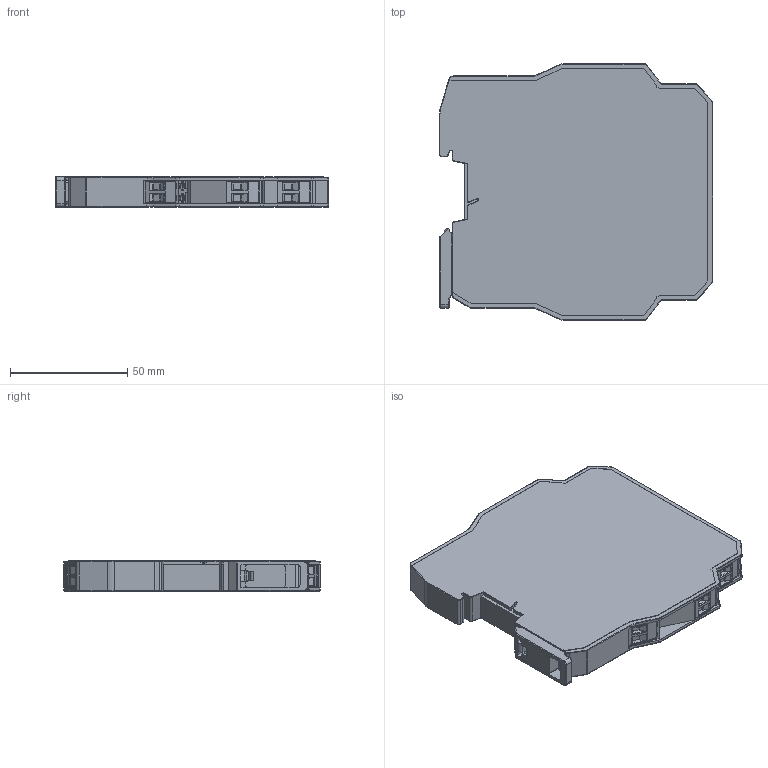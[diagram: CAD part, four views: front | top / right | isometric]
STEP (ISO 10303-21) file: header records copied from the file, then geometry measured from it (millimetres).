
FILE_DESCRIPTION(/* description */ (''),/* implementation_level */ '2;1');
FILE_NAME(/* name */ 'C1C1stp-3D',/* time_stamp */ '2025-11-12T05:38:01+08:00',/* author */ (''),/* organization */ (''),/* preprocessor_version */ 'ST-DEVELOPER v9',/* originating_system */ 'EDS PLM SOLUTIONS - UNIGRAPHICS NX 2.0',/* authorisation */ '');
FILE_SCHEMA (('AUTOMOTIVE_DESIGN { 1 0 10303 214 0 1 1 1 }'));
Products named in the file (1): Admi5D49l01q
Bounding box: 116.5 x 109.4 x 13.05 mm (x, y, z)
Volume: 145640.3 mm3; surface area: 40253.9 mm2
Topology: 6 solids, 11 shells, 3237 faces, 9079 edges, 5972 vertices
Faces by surface type: plane 2757, cylinder 362, torus 97, cone 20, bspline 1
Full cylindrical faces by diameter (mm): 3.3 x10, 3.85 x20
Entity records: 103092 total; most frequent: CARTESIAN_POINT 19780, ORIENTED_EDGE 17970, DIRECTION 16047, EDGE_CURVE 8985, LINE 7889, VECTOR 7889, VERTEX_POINT 5938, AXIS2_PLACEMENT_3D 4079
